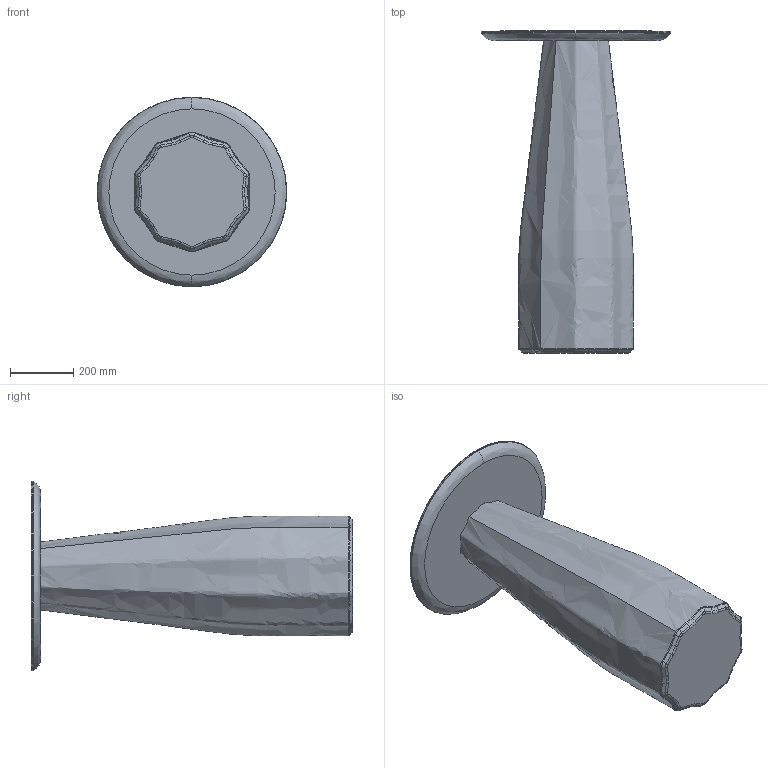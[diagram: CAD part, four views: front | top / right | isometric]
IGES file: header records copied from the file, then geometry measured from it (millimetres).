
Start section: SolidWorks IGES file using analytic representation for surfaces
Global section: file name: Z:\01-VICCARBE\VICCARBE TECNICO 2018\6.-Studio VCCB\Otros\Burin\Modelado\WEB\Nueva carpeta\BurinH100D60.IGS; native system: SolidWorks 2013; preprocessor: SolidWorks 2013; author: Usuario; date: 190219.124015; units: millimetre
Bounding box: 600 x 1020 x 600 mm (x, y, z)
Volume: 86308713.2 mm3; surface area: 1728471 mm2
Topology: 2 solids, 2 shells, 154 faces, 404 edges, 234 vertices
Faces by surface type: bspline 142, revolution 8, plane 4
